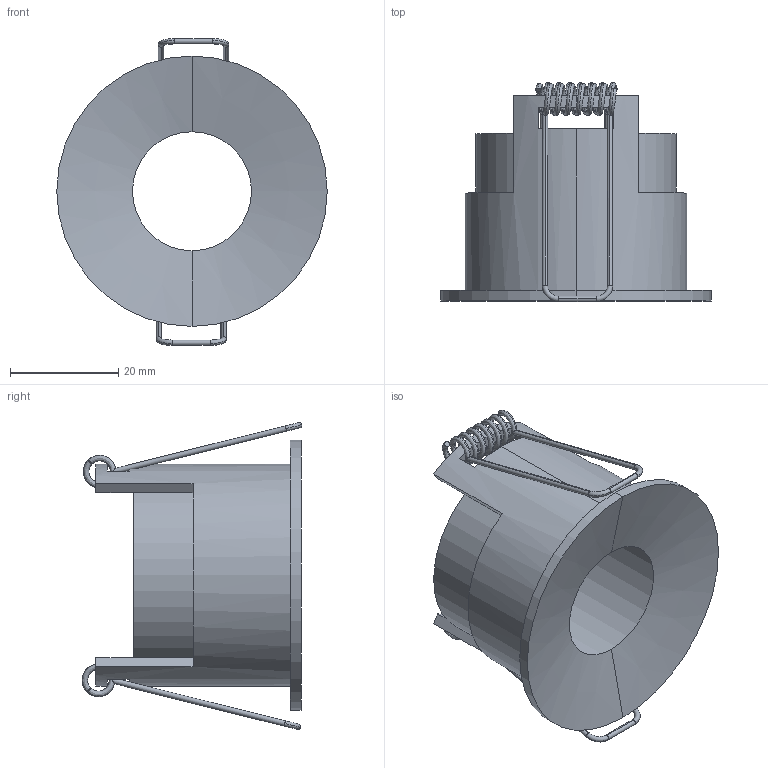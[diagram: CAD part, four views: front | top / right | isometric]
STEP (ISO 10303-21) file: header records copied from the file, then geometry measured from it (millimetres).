
FILE_DESCRIPTION (( 'STEP AP214' ), '1' );
FILE_NAME ('EnsamblajeFOCO 4.STEP', '2026-02-13T14:30:09', ( '' ), ( '' ), 'SwSTEP 2.0', 'SolidWorks 2023', '' );
FILE_SCHEMA (( 'AUTOMOTIVE_DESIGN' ));
Length unit declared in the file: millimetre
Products named in the file (3): FOCO4; EnsamblajeFOCO 4; PINZA4
Assembly tree (3 placements, depth 2):
  EnsamblajeFOCO 4
    FOCO4
    PINZA4  x2
Bounding box: 50 x 40.62 x 56.75 mm (x, y, z)
Volume: 14090.1 mm3; surface area: 11980.7 mm2
Topology: 3 solids, 3 shells, 60 faces, 182 edges, 122 vertices
Faces by surface type: cylinder 23, plane 23, torus 8, bspline 4, cone 2
Entity records: 4018 total; most frequent: CARTESIAN_POINT 2658, DIRECTION 286, ORIENTED_EDGE 272, EDGE_CURVE 136, AXIS2_PLACEMENT_3D 116, VERTEX_POINT 90, CIRCLE 66, LINE 54
